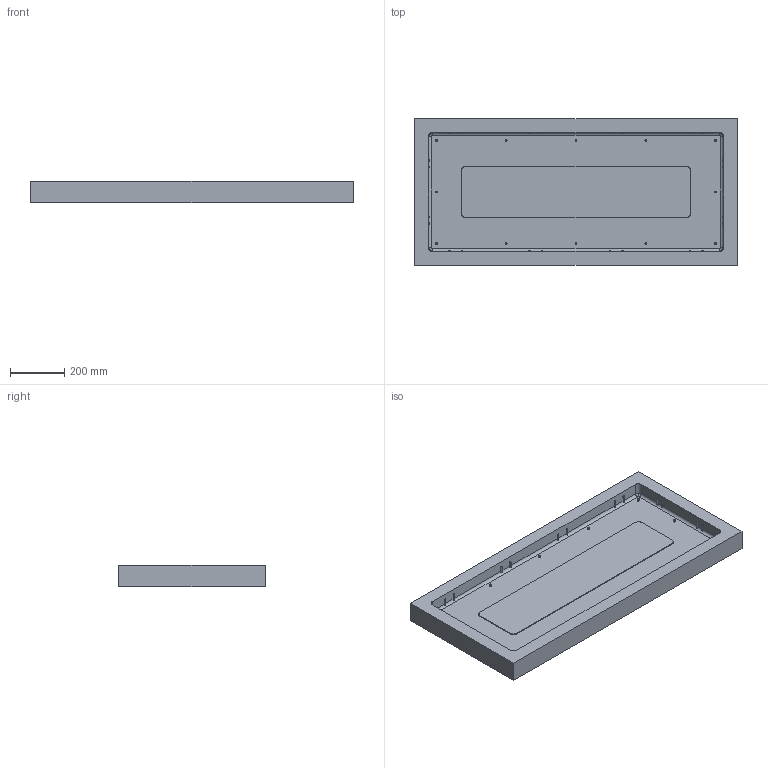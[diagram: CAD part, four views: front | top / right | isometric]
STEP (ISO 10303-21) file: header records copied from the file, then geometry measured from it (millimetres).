
FILE_DESCRIPTION (( 'STEP AP214' ), '1' );
FILE_NAME ('Lid inside Type 7200.STEP', '2022-07-14T14:18:59', ( '' ), ( '' ), 'SwSTEP 2.0', 'SolidWorks 2021', '' );
FILE_SCHEMA (( 'AUTOMOTIVE_DESIGN' ));
Length unit declared in the file: millimetre
Products named in the file (1): Lid inside Type 7200
Bounding box: 1192.4 x 542.4 x 78 mm (x, y, z)
Volume: 27038502.8 mm3; surface area: 1708680 mm2
Topology: 1 solids, 1 shells, 308 faces, 756 edges, 488 vertices
Faces by surface type: plane 124, cone 84, torus 52, cylinder 32, bspline 16
Entity records: 10842 total; most frequent: CARTESIAN_POINT 3633, ORIENTED_EDGE 1512, DIRECTION 1506, EDGE_CURVE 756, AXIS2_PLACEMENT_3D 593, VERTEX_POINT 488, EDGE_LOOP 346, LINE 320
